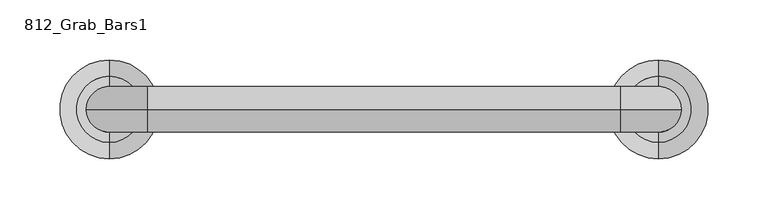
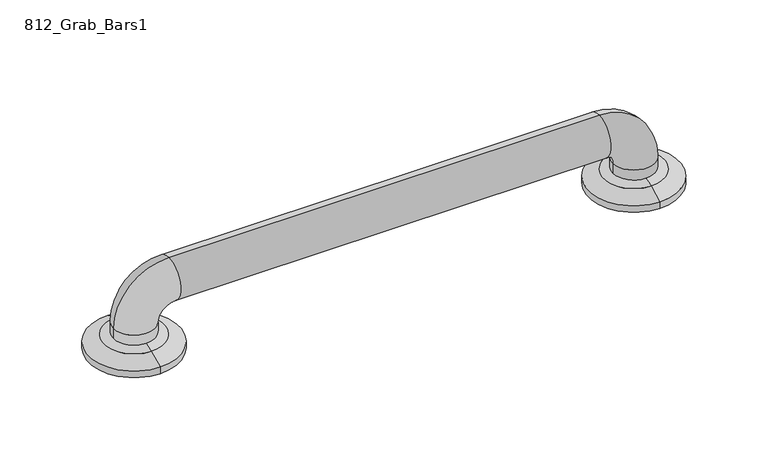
"""IFC4 building model written with IfcOpenShell, lengths in millimetres: proxy geometry, 812_Grab_Bars1 : 8122-001180."""

from ifc_helpers import new_model, si_unit, point, frame, origin, place, context, project, spatial, polyline, circle_curve, ellipse_curve, trimmed, source, transform, mapped, element, save
from ifc_brep_helpers import plane_surface, cylinder_surface, revolved_surface, advanced_brep


def proxy_812_grab_bars1_bdd373ed(model_context):
    return source(origin(), model_context, "Body", "AdvancedBrep", [
        advanced_brep(
        [(-173.0375, -564.1630987, 13.1934507), (-173.0375, -508.9869013, 13.1934507), (-173.0375, -495.3, 6.35), (-173.0375, -577.85, 6.35), (-173.0375, -555.625, 15.7178454), (-192.0875, -536.575, 15.7178454), (-173.0375, -517.525, 15.7178454), (-153.9875, -536.575, 15.7178454), (-173.0375, -577.85, 0.0), (-173.0375, -495.3, 0.0), (-173.0375, -517.525, 0.0), (-173.0375, -536.575, 0.0), (-173.0375, -555.625, 0.0), (-192.0875, -536.575, 25.4), (-153.9875, -536.575, 25.4), (-141.2875, -536.575, 76.2), (-141.2875, -536.575, 38.1), (252.4125, -536.575, 76.2), (252.4125, -536.575, 38.1), (303.2125, -536.575, 25.4), (265.1125, -536.575, 25.4), (284.1625, -577.85, 0.0), (284.1625, -495.3, 0.0), (303.2125, -536.575, 15.7178454), (284.1625, -517.525, 15.7178454), (265.1125, -536.575, 15.7178454), (284.1625, -555.625, 15.7178454), (284.1625, -564.1630987, 13.1934507), (284.1625, -508.9869013, 13.1934507), (284.1625, -495.3, 6.35), (284.1625, -577.85, 6.35)],
        [
            (0, 1, circle_curve(frame((-173.0375, -536.575, 13.1934507), z_axis=(0.0, 0.0, -1.0), x_axis=(0.0, 1.0, 0.0)), 27.5880987)),
            (1, 2),
            (2, 3, circle_curve(frame((-173.0375, -536.575, 6.35), z_axis=(0.0, 0.0, 1.0), x_axis=(0.0, 1.0, 0.0)), 41.275)),
            (3, 0),
            (1, 0, circle_curve(frame((-173.0375, -536.575, 13.1934507), z_axis=(0.0, 0.0, -1.0), x_axis=(0.0, 1.0, 0.0)), 27.5880987)),
            (3, 2, circle_curve(frame((-173.0375, -536.575, 6.35), z_axis=(0.0, 0.0, 1.0), x_axis=(0.0, 1.0, 0.0)), 41.275)),
            (0, 4, circle_curve(frame((-173.0375, -552.8038734, -9.525), z_axis=(-1.0, 0.0, 0.0), x_axis=(0.0, 0.0, -1.0)), 25.4)),
            (4, 5, circle_curve(frame((-173.0375, -536.575, 15.7178454), z_axis=(0.0, 0.0, -1.0), x_axis=(0.0, 1.0, 0.0)), 19.05)),
            (5, 6, circle_curve(frame((-173.0375, -536.575, 15.7178454), z_axis=(0.0, 0.0, -1.0), x_axis=(0.0, 1.0, 0.0)), 19.05)),
            (6, 1, circle_curve(frame((-173.0375, -520.3461266, -9.525), z_axis=(-1.0, 0.0, 0.0), x_axis=(0.0, 0.0, -1.0)), 25.4)),
            (6, 7, circle_curve(frame((-173.0375, -536.575, 15.7178454), z_axis=(0.0, 0.0, -1.0), x_axis=(0.0, 1.0, 0.0)), 19.05)),
            (7, 4, circle_curve(frame((-173.0375, -536.575, 15.7178454), z_axis=(0.0, 0.0, -1.0), x_axis=(0.0, 1.0, 0.0)), 19.05)),
            (8, 9, circle_curve(frame((-173.0375, -536.575, 0.0), z_axis=(0.0, 0.0, -1.0), x_axis=(0.0, 1.0, 0.0)), 41.275)),
            (9, 10),
            (10, 11),
            (11, 12),
            (12, 8),
            (9, 8, circle_curve(frame((-173.0375, -536.575, 0.0), z_axis=(0.0, 0.0, -1.0), x_axis=(0.0, 1.0, 0.0)), 41.275)),
            (2, 9),
            (8, 3),
            (13, 14, circle_curve(frame((-173.0375, -536.575, 25.4), z_axis=(0.0, 0.0, -1.0), x_axis=(1.0, 0.0, 0.0)), 19.05)),
            (14, 7),
            (5, 13),
            (14, 13, circle_curve(frame((-173.0375, -536.575, 25.4), z_axis=(0.0, 0.0, -1.0), x_axis=(1.0, 0.0, 0.0)), 19.05)),
            (13, 15, circle_curve(frame((-141.2875, -536.575, 25.4), z_axis=(0.0, 1.0, 0.0), x_axis=(-1.0, 0.0, 0.0)), 50.8)),
            (15, 16, circle_curve(frame((-141.2875, -536.575, 57.15), z_axis=(-1.0, 0.0, 0.0), x_axis=(0.0, 0.0, -1.0)), 19.05)),
            (16, 14, circle_curve(frame((-141.2875, -536.575, 25.4), z_axis=(0.0, -1.0, 0.0), x_axis=(-1.0, 0.0, 0.0)), 12.7)),
            (16, 15, circle_curve(frame((-141.2875, -536.575, 57.15), z_axis=(-1.0, 0.0, 0.0), x_axis=(0.0, 0.0, -1.0)), 19.05)),
            (15, 17),
            (17, 18, circle_curve(frame((252.4125, -536.575, 57.15), z_axis=(-1.0, 0.0, 0.0), x_axis=(0.0, 0.0, -1.0)), 19.05)),
            (18, 16),
            (18, 17, circle_curve(frame((252.4125, -536.575, 57.15), z_axis=(-1.0, 0.0, 0.0), x_axis=(0.0, 0.0, -1.0)), 19.05)),
            (17, 19, circle_curve(frame((252.4125, -536.575, 25.4), z_axis=(0.0, 1.0, 0.0), x_axis=(0.0, 0.0, 1.0)), 50.8)),
            (19, 20, circle_curve(frame((284.1625, -536.575, 25.4), z_axis=(0.0, 0.0, 1.0), x_axis=(-1.0, 0.0, 0.0)), 19.05)),
            (20, 18, circle_curve(frame((252.4125, -536.575, 25.4), z_axis=(0.0, -1.0, 0.0), x_axis=(0.0, 0.0, 1.0)), 12.7)),
            (20, 19, circle_curve(frame((284.1625, -536.575, 25.4), z_axis=(0.0, 0.0, 1.0), x_axis=(-1.0, 0.0, 0.0)), 19.05)),
            (21, 22, circle_curve(frame((284.1625, -536.575, 0.0), z_axis=(0.0, 0.0, -1.0), x_axis=(0.0, 1.0, 0.0)), 41.275)),
            (22, 21, circle_curve(frame((284.1625, -536.575, 0.0), z_axis=(0.0, 0.0, -1.0), x_axis=(0.0, 1.0, 0.0)), 41.275)),
            (19, 23),
            (23, 24, circle_curve(frame((284.1625, -536.575, 15.7178454), z_axis=(0.0, 0.0, 1.0), x_axis=(-1.0, 0.0, 0.0)), 19.05)),
            (24, 25, circle_curve(frame((284.1625, -536.575, 15.7178454), z_axis=(0.0, 0.0, 1.0), x_axis=(-1.0, 0.0, 0.0)), 19.05)),
            (25, 20),
            (25, 26, circle_curve(frame((284.1625, -536.575, 15.7178454), z_axis=(0.0, 0.0, 1.0), x_axis=(-1.0, 0.0, 0.0)), 19.05)),
            (26, 23, circle_curve(frame((284.1625, -536.575, 15.7178454), z_axis=(0.0, 0.0, 1.0), x_axis=(-1.0, 0.0, 0.0)), 19.05)),
            (27, 28, circle_curve(frame((284.1625, -536.575, 13.1934507), z_axis=(0.0, 0.0, -1.0), x_axis=(0.0, 1.0, 0.0)), 27.5880987)),
            (28, 29),
            (29, 30, circle_curve(frame((284.1625, -536.575, 6.35), z_axis=(0.0, 0.0, 1.0), x_axis=(0.0, 1.0, 0.0)), 41.275)),
            (30, 27),
            (28, 27, circle_curve(frame((284.1625, -536.575, 13.1934507), z_axis=(0.0, 0.0, -1.0), x_axis=(0.0, 1.0, 0.0)), 27.5880987)),
            (30, 29, circle_curve(frame((284.1625, -536.575, 6.35), z_axis=(0.0, 0.0, 1.0), x_axis=(0.0, 1.0, 0.0)), 41.275)),
            (27, 26, circle_curve(frame((284.1625, -552.8038734, -9.525), z_axis=(-1.0, 0.0, 0.0), x_axis=(0.0, 0.0, -1.0)), 25.4)),
            (24, 28, circle_curve(frame((284.1625, -520.3461266, -9.525), z_axis=(-1.0, 0.0, 0.0), x_axis=(0.0, 0.0, -1.0)), 25.4)),
            (29, 22),
            (21, 30),
        ],
        [
            revolved_surface(polyline([(-173.0375, -495.3, 6.35), (-173.0375, -508.9869013, 13.1934507)]), (-173.0375, -536.575, 31.75), (0.0, 0.0, 1.0)),
            revolved_surface(trimmed(ellipse_curve(frame((-173.0375, -520.3461266, -9.525), z_axis=(1.0, 0.0, 0.0), x_axis=(0.0, 0.0, -1.0)), 25.4, 25.4), [point((-173.0375, -508.9869013, 13.1934507))], [point((-173.0375, -520.3461266, 15.875))], True, "CARTESIAN"), (-173.0375, -536.575, 31.75), (0.0, 0.0, 1.0)),
            plane_surface(frame((-173.0375, -536.575, 0.0), z_axis=(0.0, 0.0, -1.0), x_axis=(0.0, 1.0, 0.0))),
            cylinder_surface(frame((-173.0375, -536.575, 31.75), z_axis=(0.0, 0.0, 1.0), x_axis=(0.0, 1.0, 0.0)), 41.275),
            cylinder_surface(frame((-173.0375, -536.575, 0.0), z_axis=(0.0, 0.0, -1.0), x_axis=(1.0, 0.0, 0.0)), 19.05),
            revolved_surface(trimmed(ellipse_curve(frame((-173.0375, -536.575, 25.4), z_axis=(0.0, 0.0, -1.0), x_axis=(1.0, 0.0, 0.0)), 19.05, 19.05), [point((-192.0875, -536.575, 25.4))], [point((-153.9875, -536.575, 25.4))], True, "CARTESIAN"), (-141.2875, -536.575, 25.4), (0.0, 1.0, 0.0)),
            revolved_surface(trimmed(ellipse_curve(frame((-173.0375, -536.575, 25.4), z_axis=(0.0, 0.0, -1.0), x_axis=(1.0, 0.0, 0.0)), 19.05, 19.05), [point((-153.9875, -536.575, 25.4))], [point((-192.0875, -536.575, 25.4))], True, "CARTESIAN"), (-141.2875, -536.575, 25.4), (0.0, 1.0, 0.0)),
            cylinder_surface(frame((-141.2875, -536.575, 57.15), z_axis=(-1.0, 0.0, 0.0), x_axis=(0.0, 0.0, -1.0)), 19.05),
            revolved_surface(trimmed(ellipse_curve(frame((252.4125, -536.575, 57.15), z_axis=(-1.0, 0.0, 0.0), x_axis=(0.0, 0.0, -1.0)), 19.05, 19.05), [point((252.4125, -536.575, 76.2))], [point((252.4125, -536.575, 38.1))], True, "CARTESIAN"), (252.4125, -536.575, 25.4), (0.0, 1.0, 0.0)),
            revolved_surface(trimmed(ellipse_curve(frame((252.4125, -536.575, 57.15), z_axis=(-1.0, 0.0, 0.0), x_axis=(0.0, 0.0, -1.0)), 19.05, 19.05), [point((252.4125, -536.575, 38.1))], [point((252.4125, -536.575, 76.2))], True, "CARTESIAN"), (252.4125, -536.575, 25.4), (0.0, 1.0, 0.0)),
            plane_surface(frame((284.1625, -536.575, 0.0), z_axis=(0.0, 0.0, -1.0), x_axis=(0.0, 1.0, 0.0))),
            cylinder_surface(frame((284.1625, -536.575, 25.4), z_axis=(0.0, 0.0, 1.0), x_axis=(-1.0, 0.0, 0.0)), 19.05),
            revolved_surface(polyline([(284.1625, -495.3, 6.35), (284.1625, -508.9869013, 13.1934507)]), (284.1625, -536.575, -29.0642853), (0.0, 0.0, 1.0)),
            revolved_surface(trimmed(ellipse_curve(frame((284.1625, -520.3461266, -9.525), z_axis=(1.0, 0.0, 0.0), x_axis=(0.0, 0.0, -1.0)), 25.4, 25.4), [point((284.1625, -508.9869013, 13.1934507))], [point((284.1625, -520.3461266, 15.875))], True, "CARTESIAN"), (284.1625, -536.575, -29.0642853), (0.0, 0.0, 1.0)),
            cylinder_surface(frame((284.1625, -536.575, -29.0642853), z_axis=(0.0, 0.0, 1.0), x_axis=(0.0, 1.0, 0.0)), 41.275),
        ],
        [
            (0, [[1, 2, 3, 4]]),
            (0, [[-2, 5, -4, 6]]),
            (1, [[-1, 7, 8, 9, 10]]),
            (1, [[-5, -10, 11, 12, -7]]),
            (2, [[13, 14, 15, 16, 17]]),
            (2, [[18, -17, -16, -15, -14]]),
            (3, [[-3, 19, -13, 20]]),
            (3, [[-6, -20, -18, -19]]),
            (4, [[21, 22, -11, -9, 23]]),
            (4, [[24, -23, -8, -12, -22]]),
            (5, [[-21, 25, 26, 27]]),
            (6, [[-24, -27, 28, -25]]),
            (7, [[-26, 29, 30, 31]]),
            (7, [[-28, -31, 32, -29]]),
            (8, [[-30, 33, 34, 35]]),
            (9, [[-32, -35, 36, -33]]),
            (10, [[37, 38]]),
            (11, [[-34, 39, 40, 41, 42]]),
            (11, [[-36, -42, 43, 44, -39]]),
            (12, [[45, 46, 47, 48]]),
            (12, [[-46, 49, -48, 50]]),
            (13, [[-45, 51, -43, -41, 52]]),
            (13, [[-49, -52, -40, -44, -51]]),
            (14, [[-47, 53, -37, 54]]),
            (14, [[-50, -54, -38, -53]]),
        ],
    ),
    ])


if __name__ == "__main__":
    model = new_model("IFC4")
    model_context = context("Model", 3, world=origin())
    ifc_project = project(units=[si_unit("LENGTHUNIT", "METRE", prefix="MILLI")], contexts=[model_context])
    site = spatial("IfcSite", under=ifc_project)
    building = spatial("IfcBuilding", under=site)
    placement = place(None, origin())
    proxy_812_grab_bars1_shape = proxy_812_grab_bars1_bdd373ed(model_context)
    element("IfcBuildingElementProxy", 1, Name="812_Grab_Bars1 : 8122-001180", ObjectType="812_Grab_Bars1 : 8122-001180", at=placement, inside=building, context=model_context, shape_type="MappedRepresentation", body=[
        mapped(proxy_812_grab_bars1_shape, transform((0.0, 0.0, 0.0), x_axis=(1.0, 0.0, 0.0), y_axis=(0.0, 1.0, 0.0), z_axis=(0.0, 0.0, 1.0))),
    ])
    save(model, "model.ifc")
